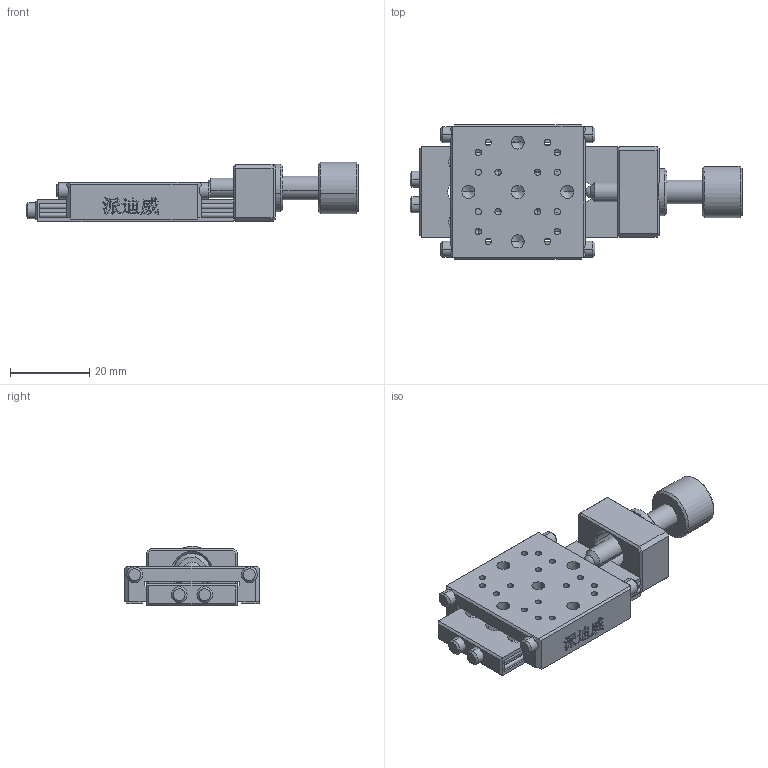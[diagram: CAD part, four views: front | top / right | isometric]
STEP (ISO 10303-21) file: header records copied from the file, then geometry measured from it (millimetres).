
FILE_DESCRIPTION (( 'STEP AP214' ), '1' );
FILE_NAME ('PT-SD104P.STEP', '2022-09-03T05:37:12', ( '' ), ( '' ), 'SwSTEP 2.0', 'SolidWorks 2017', '' );
FILE_SCHEMA (( 'AUTOMOTIVE_DESIGN' ));
Length unit declared in the file: millimetre
Products named in the file (5): ㄗ0ㄘ峚煦芛; （0）PP110-13-34微分头座; PT-SD104P; ㄗ0ㄘ怢醱; （0）PP110-13-34底板
Assembly tree (4 placements, depth 2):
  PT-SD104P
    （0）PP110-13-34微分头座
    （0）PP110-13-34底板
    ㄗ0ㄘ怢醱
    ㄗ0ㄘ峚煦芛
Bounding box: 84 x 34 x 14.99 mm (x, y, z)
Volume: 15996.3 mm3; surface area: 12269.9 mm2
Topology: 8 solids, 8 shells, 640 faces, 1681 edges, 1077 vertices
Faces by surface type: plane 338, bspline 152, cylinder 97, cone 52, sphere 1
Entity records: 28780 total; most frequent: CARTESIAN_POINT 10794, ORIENTED_EDGE 3304, DIRECTION 2568, EDGE_CURVE 1652, LINE 1094, VECTOR 1094, VERTEX_POINT 1075, AXIS2_PLACEMENT_3D 737
